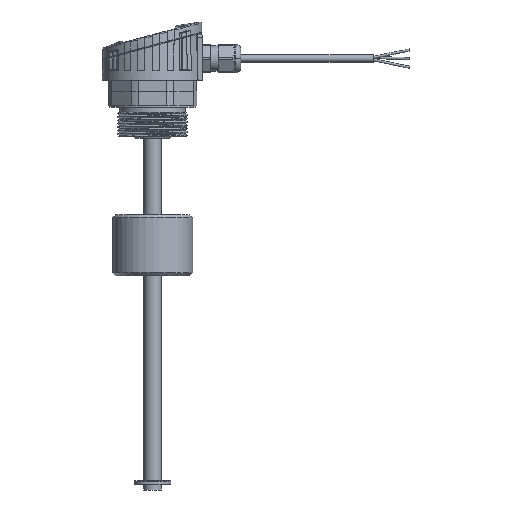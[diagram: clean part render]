
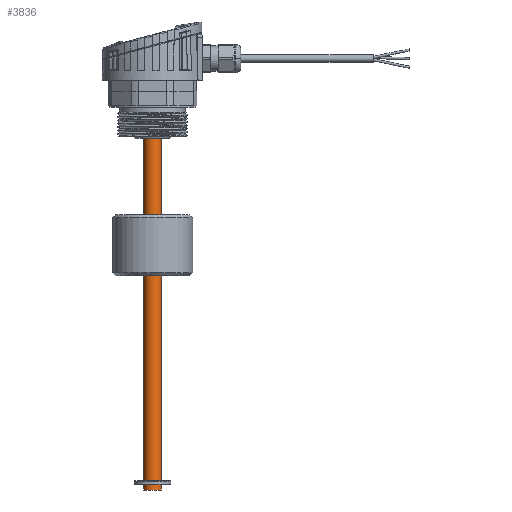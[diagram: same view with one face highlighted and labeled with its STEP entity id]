
A CAD part, front view. The second image highlights one B-rep face of the part: STEP entity #3836.
In plain terms, the highlighted cylindrical face has radius 6 mm (diameter 12 mm), a full revolution.
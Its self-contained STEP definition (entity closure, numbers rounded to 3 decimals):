
#1157=CIRCLE('',#23317,6.);
#1158=CIRCLE('',#23320,6.);
#1550=CYLINDRICAL_SURFACE('',#23321,6.);
#3836=ADVANCED_FACE('',(#5035,#5036),#1550,.T.);
#5035=FACE_BOUND('',#6223,.T.);
#5036=FACE_BOUND('',#6224,.T.);
#6223=EDGE_LOOP('',(#14844));
#6224=EDGE_LOOP('',(#14845));
#14844=ORIENTED_EDGE('',*,*,#20978,.T.);
#14845=ORIENTED_EDGE('',*,*,#20981,.T.);
#18074=VERTEX_POINT('',#60218);
#18075=VERTEX_POINT('',#61678);
#20978=EDGE_CURVE('',#18074,#18074,#1157,.T.);
#20981=EDGE_CURVE('',#18075,#18075,#1158,.T.);
#23317=AXIS2_PLACEMENT_3D('',#60217,#27570,#27571);
#23320=AXIS2_PLACEMENT_3D('',#61677,#27576,#27577);
#23321=AXIS2_PLACEMENT_3D('',#61679,#27578,#27579);
#27570=DIRECTION('',(0.,0.,-1.));
#27571=DIRECTION('',(-1.,0.,0.));
#27576=DIRECTION('',(0.,0.,1.));
#27577=DIRECTION('',(-1.,0.,0.));
#27578=DIRECTION('',(0.,0.,1.));
#27579=DIRECTION('',(1.,0.,0.));
#60217=CARTESIAN_POINT('',(0.,0.,-28.5));
#60218=CARTESIAN_POINT('',(-6.,0.,-28.5));
#61677=CARTESIAN_POINT('',(0.,0.,-267.));
#61678=CARTESIAN_POINT('',(-6.,0.,-267.));
#61679=CARTESIAN_POINT('',(0.,0.,-267.));
